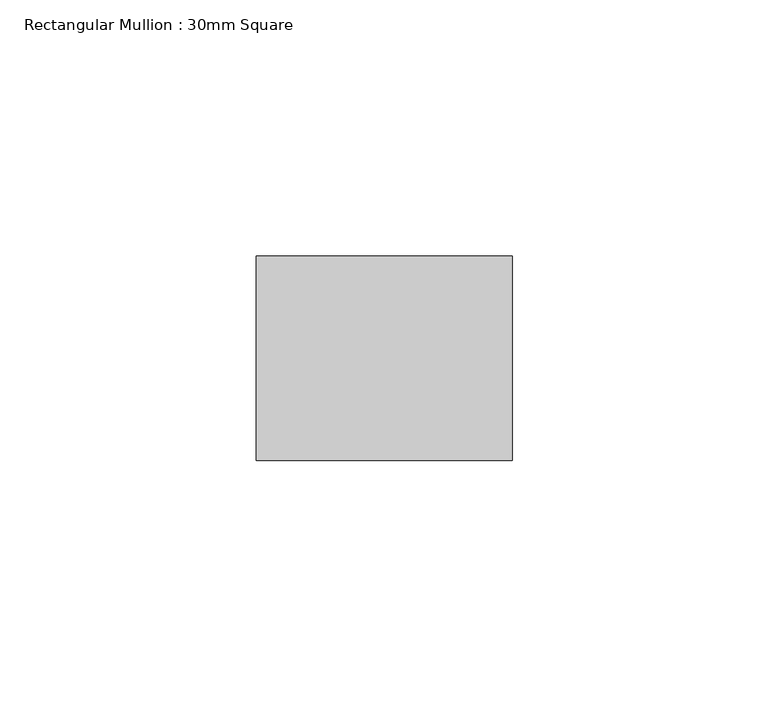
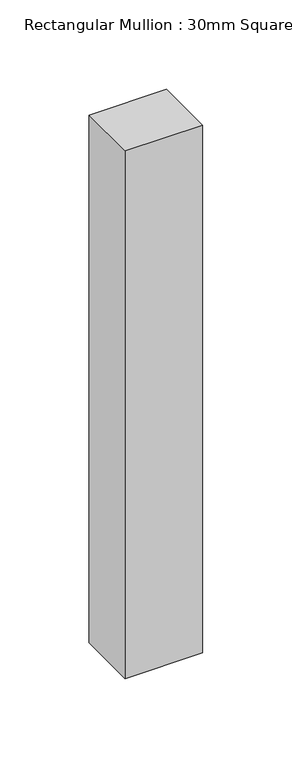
"""IFC4 building model written with IfcOpenShell, lengths in millimetres: member geometry, Rectangular Mullion : 30mm Square."""

from ifc_helpers import new_model, si_unit, frame, origin, place, context, project, spatial, polyline, outline, extrude, source, transform, mapped, element, save


def rectangular_mullion_30mm_square_640eb250(model_context):
    return source(origin(), model_context, "Body", "SweptSolid", [
        extrude(outline(polyline([(0.0, 20.0), (0.0, -20.0), (-50.0, -20.0), (-50.0, 20.0), (0.0, 20.0)])), frame((0.0, 0.0, -360.0), z_axis=(0.0, 0.0, 1.0), x_axis=(1.0, 0.0, 0.0)), (0.0, 0.0, 1.0), 360.0),
    ])


if __name__ == "__main__":
    model = new_model("IFC4")
    model_context = context("Model", 3, world=origin())
    ifc_project = project(units=[si_unit("LENGTHUNIT", "METRE", prefix="MILLI")], contexts=[model_context])
    site = spatial("IfcSite", under=ifc_project)
    building = spatial("IfcBuilding", under=site)
    placement = place(None, origin())
    rectangular_mullion_30mm_square_shape = rectangular_mullion_30mm_square_640eb250(model_context)
    element("IfcMember", 1, ObjectType="Rectangular Mullion : 30mm Square", at=placement, inside=building, context=model_context, shape_type="MappedRepresentation", body=[
        mapped(rectangular_mullion_30mm_square_shape, transform((0.0, 0.0, 0.0), x_axis=(1.0, 0.0, 0.0), y_axis=(0.0, 1.0, 0.0), z_axis=(0.0, 0.0, 1.0))),
    ])
    save(model, "model.ifc")
